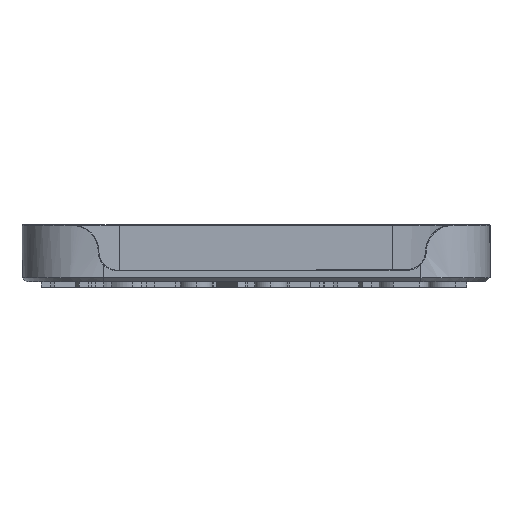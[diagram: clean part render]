
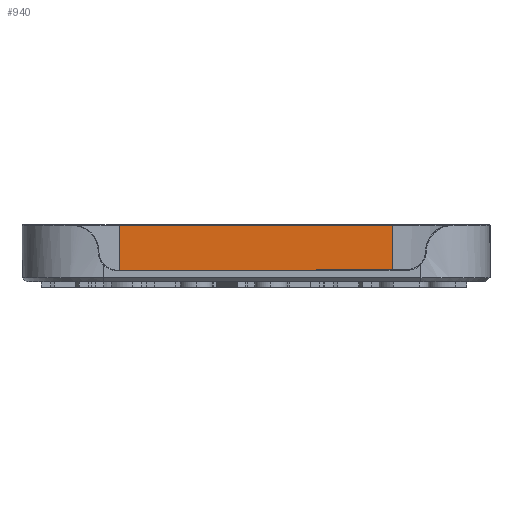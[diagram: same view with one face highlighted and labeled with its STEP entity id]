
A CAD part, front view. The second image highlights one B-rep face of the part: STEP entity #940.
In plain terms, the highlighted planar face has unit normal (0, -1, 0).
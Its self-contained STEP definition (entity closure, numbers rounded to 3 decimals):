
#230 = LINE ( 'NONE', #27263, #24158 ) ;
#940 = ADVANCED_FACE ( 'NONE', ( #5124 ), #24460, .F. ) ;
#1739 = VECTOR ( 'NONE', #12757, 1000. ) ;
#2921 = DIRECTION ( 'NONE',  ( 0., 0., 1. ) ) ;
#4068 = CARTESIAN_POINT ( 'NONE',  ( -154.507, 120.552, 1. ) ) ;
#4260 = CARTESIAN_POINT ( 'NONE',  ( -154.507, 120.552, 8.3 ) ) ;
#4447 = VERTEX_POINT ( 'NONE', #26108 ) ;
#5124 = FACE_OUTER_BOUND ( 'NONE', #18742, .T. ) ;
#5829 = CARTESIAN_POINT ( 'NONE',  ( -194.757, 120.552, 1. ) ) ;
#6203 = VERTEX_POINT ( 'NONE', #20166 ) ;
#6988 = AXIS2_PLACEMENT_3D ( 'NONE', #20291, #11188, #22523 ) ;
#7136 = DIRECTION ( 'NONE',  ( -1., 0., 0. ) ) ;
#10391 = LINE ( 'NONE', #4260, #11800 ) ;
#10755 = VERTEX_POINT ( 'NONE', #23141 ) ;
#11188 = DIRECTION ( 'NONE',  ( 0., 1., 0. ) ) ;
#11800 = VECTOR ( 'NONE', #7136, 1000. ) ;
#12071 = VECTOR ( 'NONE', #17135, 1000. ) ;
#12135 = ORIENTED_EDGE ( 'NONE', *, *, #25002, .T. ) ;
#12757 = DIRECTION ( 'NONE',  ( -1., 0., 0. ) ) ;
#16935 = VERTEX_POINT ( 'NONE', #17585 ) ;
#17135 = DIRECTION ( 'NONE',  ( 0., 0., 1. ) ) ;
#17585 = CARTESIAN_POINT ( 'NONE',  ( -194.757, 120.552, 8.3 ) ) ;
#17642 = EDGE_CURVE ( 'NONE', #10755, #16935, #17951, .T. ) ;
#17951 = LINE ( 'NONE', #5829, #12071 ) ;
#18742 = EDGE_LOOP ( 'NONE', ( #12135, #25766, #23705, #18751 ) ) ;
#18751 = ORIENTED_EDGE ( 'NONE', *, *, #20063, .F. ) ;
#20063 = EDGE_CURVE ( 'NONE', #4447, #10755, #22222, .T. ) ;
#20166 = CARTESIAN_POINT ( 'NONE',  ( -154.507, 120.552, 8.3 ) ) ;
#20291 = CARTESIAN_POINT ( 'NONE',  ( -154.507, 120.552, 1. ) ) ;
#21000 = EDGE_CURVE ( 'NONE', #6203, #16935, #10391, .T. ) ;
#22222 = LINE ( 'NONE', #4068, #1739 ) ;
#22523 = DIRECTION ( 'NONE',  ( -1., 0., 0. ) ) ;
#23141 = CARTESIAN_POINT ( 'NONE',  ( -194.757, 120.552, 1. ) ) ;
#23705 = ORIENTED_EDGE ( 'NONE', *, *, #17642, .F. ) ;
#24158 = VECTOR ( 'NONE', #2921, 1000. ) ;
#24460 = PLANE ( 'NONE',  #6988 ) ;
#25002 = EDGE_CURVE ( 'NONE', #4447, #6203, #230, .T. ) ;
#25766 = ORIENTED_EDGE ( 'NONE', *, *, #21000, .T. ) ;
#26108 = CARTESIAN_POINT ( 'NONE',  ( -154.507, 120.552, 1. ) ) ;
#27263 = CARTESIAN_POINT ( 'NONE',  ( -154.507, 120.552, 1. ) ) ;
